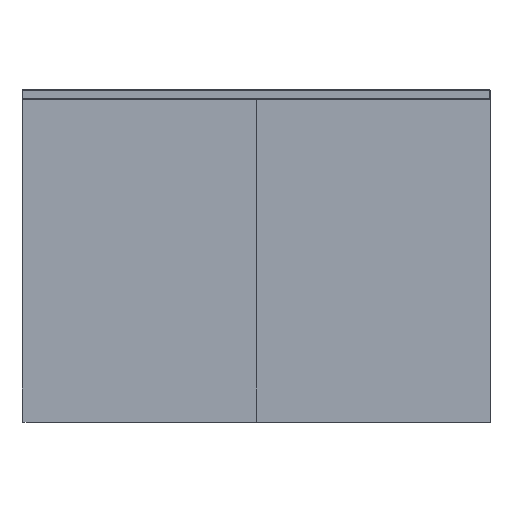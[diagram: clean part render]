
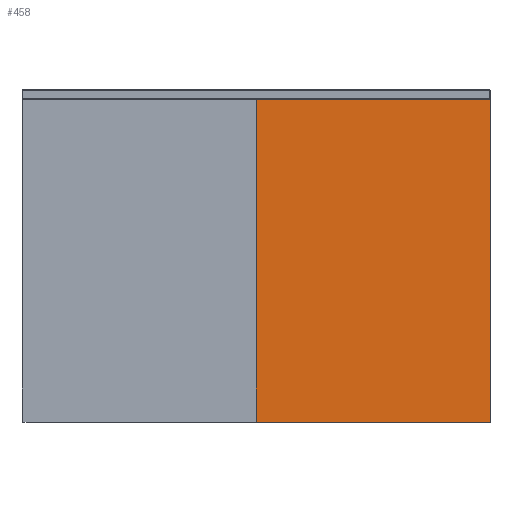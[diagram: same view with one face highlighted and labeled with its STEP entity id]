
A CAD part, top view. The second image highlights one B-rep face of the part: STEP entity #458.
In plain terms, the highlighted planar face has unit normal (0, 0, 1) as drawn and (0, -1, 0) by its records, which use the part's own axes.
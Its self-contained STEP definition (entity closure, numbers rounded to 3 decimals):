
#39 = ORIENTED_EDGE ( 'NONE', *, *, #2078, .F. ) ;
#45 = ORIENTED_EDGE ( 'NONE', *, *, #1596, .F. ) ;
#119 = DIRECTION ( 'NONE',  ( -1., 0., 0. ) ) ;
#178 = CARTESIAN_POINT ( 'NONE',  ( -250., 0., 345. ) ) ;
#315 = DIRECTION ( 'NONE',  ( 0., -1., 0. ) ) ;
#379 = DIRECTION ( 'NONE',  ( 1., 0., 0. ) ) ;
#458 = ADVANCED_FACE ( 'NONE', ( #1157 ), #1575, .T. ) ;
#485 = LINE ( 'NONE', #518, #949 ) ;
#499 = LINE ( 'NONE', #2345, #1691 ) ;
#518 = CARTESIAN_POINT ( 'NONE',  ( -250., 0., 345. ) ) ;
#583 = VERTEX_POINT ( 'NONE', #1668 ) ;
#679 = EDGE_CURVE ( 'NONE', #2497, #1862, #1324, .T. ) ;
#772 = ORIENTED_EDGE ( 'NONE', *, *, #1145, .F. ) ;
#949 = VECTOR ( 'NONE', #2541, 1000. ) ;
#976 = DIRECTION ( 'NONE',  ( 0., 0., -1. ) ) ;
#996 = VECTOR ( 'NONE', #1561, 1000. ) ;
#1089 = VERTEX_POINT ( 'NONE', #178 ) ;
#1145 = EDGE_CURVE ( 'NONE', #1089, #2497, #2016, .T. ) ;
#1157 = FACE_OUTER_BOUND ( 'NONE', #1227, .T. ) ;
#1180 = ORIENTED_EDGE ( 'NONE', *, *, #679, .F. ) ;
#1189 = CARTESIAN_POINT ( 'NONE',  ( -250., 0., 345. ) ) ;
#1227 = EDGE_LOOP ( 'NONE', ( #1180, #772, #39, #45 ) ) ;
#1324 = LINE ( 'NONE', #1752, #996 ) ;
#1561 = DIRECTION ( 'NONE',  ( 0., 0., -1. ) ) ;
#1575 = PLANE ( 'NONE',  #2598 ) ;
#1596 = EDGE_CURVE ( 'NONE', #1862, #583, #499, .T. ) ;
#1668 = CARTESIAN_POINT ( 'NONE',  ( -250., 0., -345. ) ) ;
#1691 = VECTOR ( 'NONE', #119, 1000. ) ;
#1752 = CARTESIAN_POINT ( 'NONE',  ( 250., 0., 345. ) ) ;
#1814 = CARTESIAN_POINT ( 'NONE',  ( 250., 0., -345. ) ) ;
#1862 = VERTEX_POINT ( 'NONE', #1814 ) ;
#1909 = VECTOR ( 'NONE', #379, 1000. ) ;
#2016 = LINE ( 'NONE', #1189, #1909 ) ;
#2030 = CARTESIAN_POINT ( 'NONE',  ( 250., 0., 345. ) ) ;
#2078 = EDGE_CURVE ( 'NONE', #583, #1089, #485, .T. ) ;
#2345 = CARTESIAN_POINT ( 'NONE',  ( -250., 0., -345. ) ) ;
#2497 = VERTEX_POINT ( 'NONE', #2030 ) ;
#2541 = DIRECTION ( 'NONE',  ( 0., 0., 1. ) ) ;
#2559 = CARTESIAN_POINT ( 'NONE',  ( 0., 0., 0. ) ) ;
#2598 = AXIS2_PLACEMENT_3D ( 'NONE', #2559, #315, #976 ) ;
